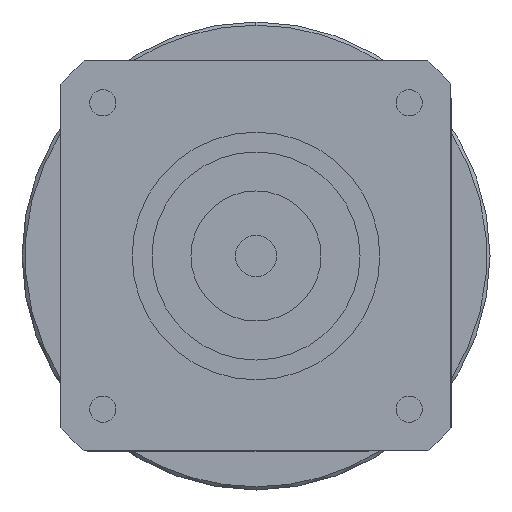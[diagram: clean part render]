
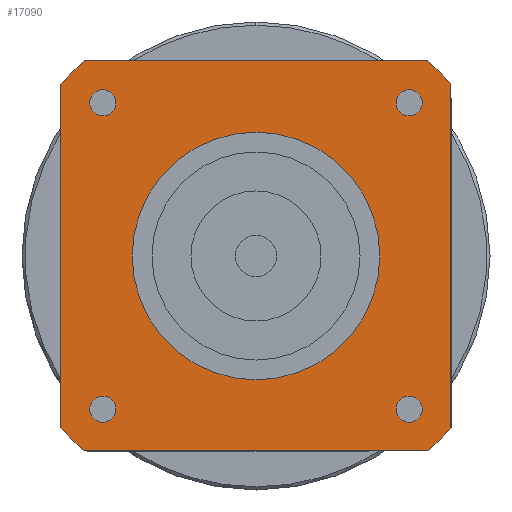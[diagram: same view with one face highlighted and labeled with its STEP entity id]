
A CAD part, left-side view. The second image highlights one B-rep face of the part: STEP entity #17090.
In plain terms, the highlighted planar face has unit normal (-1, 0, 0) as drawn and (0, 0, -1) by its records, which use the part's own axes.
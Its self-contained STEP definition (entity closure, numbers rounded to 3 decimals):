
#12050=CARTESIAN_POINT('',(26.458,-30.,-90.));
#12060=VERTEX_POINT('',#12050);
#12220=CARTESIAN_POINT('',(30.,-26.458,-90.));
#12230=VERTEX_POINT('',#12220);
#12260=CARTESIAN_POINT('',(0.,0.,
-90.));
#12270=DIRECTION('',(0.,0.,1.));
#12280=DIRECTION('',(0.,-1.,0.));
#12290=AXIS2_PLACEMENT_3D('',#12260,#12270,#12280);
#12300=CIRCLE('',#12290,40.);
#12310=EDGE_CURVE('',#12060,#12230,#12300,.T.);
#12470=CARTESIAN_POINT('',(-30.,26.458,-90.));
#12480=VERTEX_POINT('',#12470);
#12660=CARTESIAN_POINT('',(-30.,-26.458,-90.));
#12670=VERTEX_POINT('',#12660);
#12700=CARTESIAN_POINT('',(-30.,30.,-90.));
#12710=DIRECTION('',(0.,-1.,0.));
#12720=VECTOR('',#12710,1000.);
#12730=LINE('',#12700,#12720);
#12740=EDGE_CURVE('',#12480,#12670,#12730,.T.);
#14920=CARTESIAN_POINT('',(-26.458,-30.,-90.));
#14930=VERTEX_POINT('',#14920);
#14960=CARTESIAN_POINT('',(0.,0.,
-90.));
#14970=DIRECTION('',(0.,0.,1.));
#14980=DIRECTION('',(0.,-1.,0.));
#14990=AXIS2_PLACEMENT_3D('',#14960,#14970,#14980);
#15000=CIRCLE('',#14990,40.);
#15010=EDGE_CURVE('',#12670,#14930,#15000,.T.);
#15170=CARTESIAN_POINT('',(26.458,30.,-90.));
#15180=VERTEX_POINT('',#15170);
#15360=CARTESIAN_POINT('',(-26.458,30.,-90.));
#15370=VERTEX_POINT('',#15360);
#15400=CARTESIAN_POINT('',(30.,30.,-90.));
#15410=DIRECTION('',(-1.,0.,0.));
#15420=VECTOR('',#15410,1000.);
#15430=LINE('',#15400,#15420);
#15440=EDGE_CURVE('',#15180,#15370,#15430,.T.);
#15630=CARTESIAN_POINT('',(0.,0.,
-90.));
#15640=DIRECTION('',(0.,0.,1.));
#15650=DIRECTION('',(0.,-1.,0.));
#15660=AXIS2_PLACEMENT_3D('',#15630,#15640,#15650);
#15670=CIRCLE('',#15660,40.);
#15680=EDGE_CURVE('',#15370,#12480,#15670,.T.);
#15810=CARTESIAN_POINT('',(-30.,30.,-90.));
#15820=DIRECTION('',(0.,0.,1.));
#15830=DIRECTION('',(-1.,0.,0.));
#15840=AXIS2_PLACEMENT_3D('',#15810,#15820,#15830);
#15850=PLANE('',#15840);
#15860=CARTESIAN_POINT('',(23.571,-23.571,-90.));
#15870=DIRECTION('',(0.,0.,-1.));
#15880=DIRECTION('',(1.,0.,0.));
#15890=AXIS2_PLACEMENT_3D('',#15860,#15870,#15880);
#15900=CIRCLE('',#15890,2.);
#15910=CARTESIAN_POINT('',(25.571,-23.571,-90.));
#15920=VERTEX_POINT('',#15910);
#15930=CARTESIAN_POINT('',(23.571,-25.571,-90.));
#15940=VERTEX_POINT('',#15930);
#15950=EDGE_CURVE('',#15920,#15940,#15900,.T.);
#15960=ORIENTED_EDGE('',*,*,#15950,.F.);
#15970=CARTESIAN_POINT('',(23.571,-21.571,-90.));
#15980=VERTEX_POINT('',#15970);
#15990=EDGE_CURVE('',#15940,#15980,#15900,.T.);
#16000=ORIENTED_EDGE('',*,*,#15990,.F.);
#16010=EDGE_CURVE('',#15980,#15920,#15900,.T.);
#16020=ORIENTED_EDGE('',*,*,#16010,.F.);
#16030=EDGE_LOOP('',(#16020,#16000,#15960));
#16040=FACE_BOUND('',#16030,.T.);
#16050=CARTESIAN_POINT('',(23.571,23.571,-90.));
#16060=DIRECTION('',(0.,0.,-1.));
#16070=DIRECTION('',(0.,1.,0.));
#16080=AXIS2_PLACEMENT_3D('',#16050,#16060,#16070);
#16090=CIRCLE('',#16080,2.);
#16100=CARTESIAN_POINT('',(23.571,25.571,-90.));
#16110=VERTEX_POINT('',#16100);
#16120=CARTESIAN_POINT('',(25.571,23.571,-90.));
#16130=VERTEX_POINT('',#16120);
#16140=EDGE_CURVE('',#16110,#16130,#16090,.T.);
#16150=ORIENTED_EDGE('',*,*,#16140,.F.);
#16160=CARTESIAN_POINT('',(21.571,23.571,-90.));
#16170=VERTEX_POINT('',#16160);
#16180=EDGE_CURVE('',#16130,#16170,#16090,.T.);
#16190=ORIENTED_EDGE('',*,*,#16180,.F.);
#16200=EDGE_CURVE('',#16170,#16110,#16090,.T.);
#16210=ORIENTED_EDGE('',*,*,#16200,.F.);
#16220=EDGE_LOOP('',(#16210,#16190,#16150));
#16230=FACE_BOUND('',#16220,.T.);
#16240=CARTESIAN_POINT('',(-23.571,23.571,-90.));
#16250=DIRECTION('',(0.,0.,-1.));
#16260=DIRECTION('',(-1.,0.,0.));
#16270=AXIS2_PLACEMENT_3D('',#16240,#16250,#16260);
#16280=CIRCLE('',#16270,2.);
#16290=CARTESIAN_POINT('',(-25.571,23.571,-90.));
#16300=VERTEX_POINT('',#16290);
#16310=CARTESIAN_POINT('',(-23.571,25.571,-90.));
#16320=VERTEX_POINT('',#16310);
#16330=EDGE_CURVE('',#16300,#16320,#16280,.T.);
#16340=ORIENTED_EDGE('',*,*,#16330,.F.);
#16350=CARTESIAN_POINT('',(-23.571,21.571,-90.));
#16360=VERTEX_POINT('',#16350);
#16370=EDGE_CURVE('',#16320,#16360,#16280,.T.);
#16380=ORIENTED_EDGE('',*,*,#16370,.F.);
#16390=EDGE_CURVE('',#16360,#16300,#16280,.T.);
#16400=ORIENTED_EDGE('',*,*,#16390,.F.);
#16410=EDGE_LOOP('',(#16400,#16380,#16340));
#16420=FACE_BOUND('',#16410,.T.);
#16430=CARTESIAN_POINT('',(-23.571,-23.571,-90.));
#16440=DIRECTION('',(0.,0.,-1.));
#16450=DIRECTION('',(0.,-1.,0.));
#16460=AXIS2_PLACEMENT_3D('',#16430,#16440,#16450);
#16470=CIRCLE('',#16460,2.);
#16480=CARTESIAN_POINT('',(-23.571,-25.571,-90.));
#16490=VERTEX_POINT('',#16480);
#16500=CARTESIAN_POINT('',(-25.571,-23.571,-90.));
#16510=VERTEX_POINT('',#16500);
#16520=EDGE_CURVE('',#16490,#16510,#16470,.T.);
#16530=ORIENTED_EDGE('',*,*,#16520,.F.);
#16540=CARTESIAN_POINT('',(-21.571,-23.571,-90.));
#16550=VERTEX_POINT('',#16540);
#16560=EDGE_CURVE('',#16510,#16550,#16470,.T.);
#16570=ORIENTED_EDGE('',*,*,#16560,.F.);
#16580=EDGE_CURVE('',#16550,#16490,#16470,.T.);
#16590=ORIENTED_EDGE('',*,*,#16580,.F.);
#16600=EDGE_LOOP('',(#16590,#16570,#16530));
#16610=FACE_BOUND('',#16600,.T.);
#16620=ORIENTED_EDGE('',*,*,#15010,.F.);
#16630=CARTESIAN_POINT('',(-30.,-30.,-90.));
#16640=DIRECTION('',(1.,0.,0.));
#16650=VECTOR('',#16640,1000.);
#16660=LINE('',#16630,#16650);
#16670=EDGE_CURVE('',#14930,#12060,#16660,.T.);
#16680=ORIENTED_EDGE('',*,*,#16670,.F.);
#16690=ORIENTED_EDGE('',*,*,#12310,.F.);
#16700=CARTESIAN_POINT('',(30.,-30.,-90.));
#16710=DIRECTION('',(0.,1.,0.));
#16720=VECTOR('',#16710,1000.);
#16730=LINE('',#16700,#16720);
#16740=CARTESIAN_POINT('',(30.,26.458,-90.));
#16750=VERTEX_POINT('',#16740);
#16760=EDGE_CURVE('',#12230,#16750,#16730,.T.);
#16770=ORIENTED_EDGE('',*,*,#16760,.F.);
#16780=CARTESIAN_POINT('',(0.,0.,
-90.));
#16790=DIRECTION('',(0.,0.,1.));
#16800=DIRECTION('',(0.,-1.,0.));
#16810=AXIS2_PLACEMENT_3D('',#16780,#16790,#16800);
#16820=CIRCLE('',#16810,40.);
#16830=EDGE_CURVE('',#16750,#15180,#16820,.T.);
#16840=ORIENTED_EDGE('',*,*,#16830,.F.);
#16850=ORIENTED_EDGE('',*,*,#15440,.F.);
#16860=ORIENTED_EDGE('',*,*,#15680,.F.);
#16870=ORIENTED_EDGE('',*,*,#12740,.F.);
#16880=EDGE_LOOP('',(#16870,#16860,#16850,#16840,#16770,#16690,#16680,
#16620));
#16890=FACE_OUTER_BOUND('',#16880,.T.);
#16900=CARTESIAN_POINT('',(0.,0.,
-90.));
#16910=DIRECTION('',(0.,0.,1.));
#16920=DIRECTION('',(0.,-1.,0.));
#16930=AXIS2_PLACEMENT_3D('',#16900,#16910,#16920);
#16940=CIRCLE('',#16930,19.05);
#16950=CARTESIAN_POINT('',(19.05,0.,-90.));
#16960=VERTEX_POINT('',#16950);
#16970=CARTESIAN_POINT('',(-19.05,0.,-90.));
#16980=VERTEX_POINT('',#16970);
#16990=EDGE_CURVE('',#16960,#16980,#16940,.T.);
#17000=ORIENTED_EDGE('',*,*,#16990,.T.);
#17010=CARTESIAN_POINT('',(0.,-19.05,-90.));
#17020=VERTEX_POINT('',#17010);
#17030=EDGE_CURVE('',#17020,#16960,#16940,.T.);
#17040=ORIENTED_EDGE('',*,*,#17030,.T.);
#17050=EDGE_CURVE('',#16980,#17020,#16940,.T.);
#17060=ORIENTED_EDGE('',*,*,#17050,.T.);
#17070=EDGE_LOOP('',(#17060,#17040,#17000));
#17080=FACE_BOUND('',#17070,.T.);
#17090=ADVANCED_FACE('',(#16040,#16230,#16420,#16610,#16890,#17080),
#15850,.F.);
